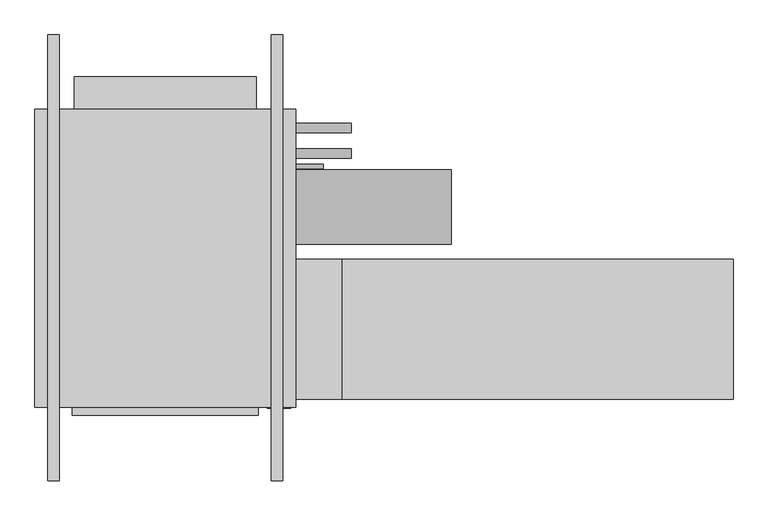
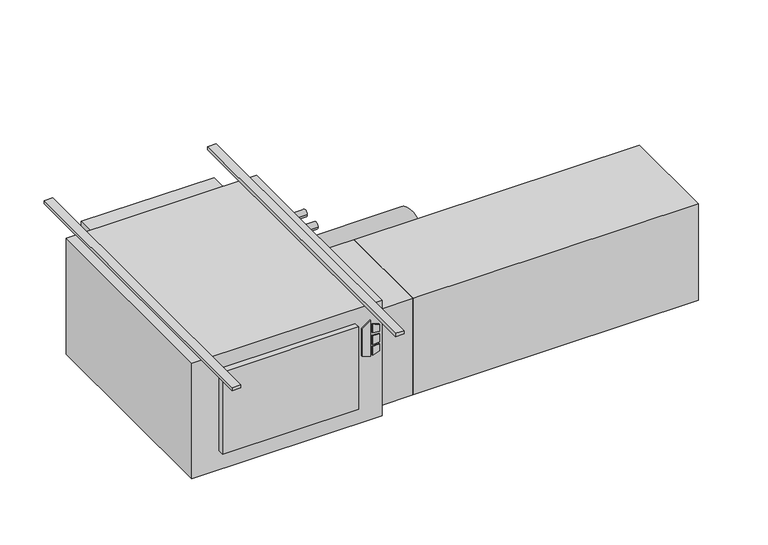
"""IFC4 building model written with IfcOpenShell, lengths in millimetres: proxy geometry."""

import ifcopenshell
import ifcopenshell.guid

model = None  # the IFC model being written
_history = None  # IfcOwnerHistory: only IFC2X3 demands one
_inside = {}  # id of a spatial element -> (the spatial element, [elements in it])
_under = {}  # id of a project, library or spatial element -> (it, [spatial elements below it])
_declared = {}  # id of a project -> (the project, [libraries it declares])
_typed = {}  # id of a type object -> (the type object, [elements of that type])
_made_of = {}  # id of a material, layer set ... -> (it, [elements and type objects made of it])


def new_model(schema):
    """Start an empty IFC model of exactly this schema.

    Asked for "IFC4X3", IfcOpenShell would pick the latest addendum, in which some entities
    have other attributes; the version numbers below select the first issue.
    IFC2X3 requires an IfcOwnerHistory on every rooted entity: one is made here for all.
    """
    global model, _history
    if schema == "IFC4X3":
        model = ifcopenshell.file(schema_version=(4, 3, 0, 0))
    else:
        model = ifcopenshell.file(schema=schema)
    _inside.clear()
    _under.clear()
    _declared.clear()
    _typed.clear()
    _made_of.clear()
    _history = None
    if model.schema == "IFC2X3":
        org = make("IfcOrganization", Name="unknown")
        user = make(
            "IfcPersonAndOrganization",
            ThePerson=make("IfcPerson", FamilyName="unknown"),
            TheOrganization=org,
        )
        app = make(
            "IfcApplication",
            ApplicationDeveloper=org,
            Version="unknown",
            ApplicationFullName="unknown",
            ApplicationIdentifier="unknown",
        )
        _history = make(
            "IfcOwnerHistory",
            OwningUser=user,
            OwningApplication=app,
            ChangeAction="ADDED",
            CreationDate=0,
        )
    return model


def make(cls, **values):
    """One entity of the class cls with the attributes given. An attribute that is None is left unset."""
    return model.create_entity(
        cls, **{name: value for name, value in values.items() if value is not None}
    )


def rooted(cls, **values):
    """An entity with a GlobalId (a new one), such as an element, a storey or a relation."""
    return make(cls, GlobalId=ifcopenshell.guid.new(), OwnerHistory=_history, **values)


def si_unit(unit_type, name, prefix=None):
    """IfcSIUnit, for example si_unit("LENGTHUNIT", "METRE", prefix="MILLI")."""
    return make("IfcSIUnit", UnitType=unit_type, Prefix=prefix, Name=name)


def assignment(units):
    """IfcUnitAssignment: the units of a project."""
    return None if units is None else make("IfcUnitAssignment", Units=units)


def point(xyz):
    """IfcCartesianPoint."""
    return None if xyz is None else make("IfcCartesianPoint", Coordinates=xyz)


def direction(xyz):
    """IfcDirection."""
    return None if xyz is None else make("IfcDirection", DirectionRatios=xyz)


def frame(location, z_axis=None, x_axis=None):
    """IfcAxis2Placement3D, a coordinate frame: its origin and axes. An axis left out is left unset."""
    return make(
        "IfcAxis2Placement3D",
        Location=point(location),
        Axis=direction(z_axis),
        RefDirection=direction(x_axis),
    )


def frame_2d(location, x_axis=None):
    """IfcAxis2Placement2D, a coordinate frame in the plane: its origin and x axis."""
    return make(
        "IfcAxis2Placement2D", Location=point(location), RefDirection=direction(x_axis)
    )


def origin():
    """The frame at (0, 0, 0) with its axes left unset."""
    return frame((0.0, 0.0, 0.0))


def origin_with_axes():
    """The frame at (0, 0, 0) with the z axis (0, 0, 1) and the x axis (1, 0, 0) written out."""
    return frame((0.0, 0.0, 0.0), z_axis=(0.0, 0.0, 1.0), x_axis=(1.0, 0.0, 0.0))


def place(relative_to, where):
    """IfcLocalPlacement: puts the frame where relative to a parent placement (None: the world)."""
    return make(
        "IfcLocalPlacement", PlacementRelTo=relative_to, RelativePlacement=where
    )


def context(
    kind, dimensions, precision=None, world=None, true_north=None, identifier=None
):
    """IfcGeometricRepresentationContext, for example the 3D "Model" context."""
    return make(
        "IfcGeometricRepresentationContext",
        ContextIdentifier=identifier,
        ContextType=kind,
        CoordinateSpaceDimension=dimensions,
        Precision=precision,
        WorldCoordinateSystem=world,
        TrueNorth=true_north,
    )


def project(units=None, contexts=None):
    """IfcProject with its units and contexts."""
    return rooted(
        "IfcProject",
        Name="project",
        RepresentationContexts=contexts,
        UnitsInContext=assignment(units),
    )


def spatial(cls, under=None, at=None, **own):
    """A site, building, storey or space (cls), placed at a placement, below another one or the project."""
    s = rooted(cls, ObjectPlacement=at, **own)
    if under is not None:
        _under.setdefault(under.id(), (under, []))[1].append(s)
    return s


def polyline(points):
    """IfcPolyline through the points."""
    return make("IfcPolyline", Points=[point(p) for p in points])


def circle_curve(where, radius):
    """IfcCircle in the frame where."""
    return make("IfcCircle", Position=where, Radius=radius)


def trimmed(basis, trim1, trim2, sense, master):
    """IfcTrimmedCurve: the piece of a basis curve between two trims."""
    return make(
        "IfcTrimmedCurve",
        BasisCurve=basis,
        Trim1=trim1,
        Trim2=trim2,
        SenseAgreement=sense,
        MasterRepresentation=master,
    )


def segment(curve, same_sense, transition):
    """IfcCompositeCurveSegment."""
    return make(
        "IfcCompositeCurveSegment",
        Transition=transition,
        SameSense=same_sense,
        ParentCurve=curve,
    )


def composite_curve(segments, self_intersect=None):
    """IfcCompositeCurve: segments joined end to end."""
    return make("IfcCompositeCurve", Segments=segments, SelfIntersect=self_intersect)


def outline(outer, holes=None, kind="AREA"):
    """IfcArbitraryClosedProfileDef: a profile drawn as a closed curve; with holes, ...WithVoids."""
    if holes is None:
        return make("IfcArbitraryClosedProfileDef", ProfileType=kind, OuterCurve=outer)
    return make(
        "IfcArbitraryProfileDefWithVoids",
        ProfileType=kind,
        OuterCurve=outer,
        InnerCurves=holes,
    )


def extrude(swept, where, along, depth):
    """IfcExtrudedAreaSolid: the profile swept, set in the frame where, extruded along a direction by depth."""
    return make(
        "IfcExtrudedAreaSolid",
        SweptArea=swept,
        Position=where,
        ExtrudedDirection=direction(along),
        Depth=depth,
    )


def shape(context_of_items, identifier, shape_type, items):
    """IfcShapeRepresentation: the items that make up one representation, for example the "Body"."""
    return make(
        "IfcShapeRepresentation",
        ContextOfItems=context_of_items,
        RepresentationIdentifier=identifier,
        RepresentationType=shape_type,
        Items=items,
    )


def source(mapping_origin, context_of_items, identifier, shape_type, items):
    """IfcRepresentationMap: a shape defined once, which mapped items show again and again."""
    return make(
        "IfcRepresentationMap",
        MappingOrigin=mapping_origin,
        MappedRepresentation=shape(context_of_items, identifier, shape_type, items),
    )


def transform(
    local_origin,
    x_axis=None,
    y_axis=None,
    z_axis=None,
    scale=None,
    scale2=None,
    scale3=None,
    uniform=True,
):
    """IfcCartesianTransformationOperator3D, or its non-uniform kind. x_axis, y_axis, z_axis: its Axis1, 2, 3."""
    if uniform:
        return make(
            "IfcCartesianTransformationOperator3D",
            Axis1=direction(x_axis),
            Axis2=direction(y_axis),
            LocalOrigin=point(local_origin),
            Scale=scale,
            Axis3=direction(z_axis),
        )
    return make(
        "IfcCartesianTransformationOperator3DnonUniform",
        Axis1=direction(x_axis),
        Axis2=direction(y_axis),
        LocalOrigin=point(local_origin),
        Scale=scale,
        Axis3=direction(z_axis),
        Scale2=scale2,
        Scale3=scale3,
    )


def mapped(mapping_source, mapping_target):
    """IfcMappedItem: shows the shape of a source again, moved by a transform."""
    return make(
        "IfcMappedItem", MappingSource=mapping_source, MappingTarget=mapping_target
    )


def made_of(thing, what):
    """Note that an element or type object is made of a material, layer set ...; save() writes the relation."""
    if what is not None:
        _made_of.setdefault(what.id(), (what, []))[1].append(thing)
    return thing


def element(
    cls,
    number,
    at=None,
    inside=None,
    cuts=None,
    type_object=None,
    material=None,
    context=None,
    identifier="Body",
    shape_type=None,
    held_by="IfcProductDefinitionShape",
    body=None,
    shapes=None,
    **own,
):
    """One element of the class cls, such as IfcWall. Its Tag is "e" and its number.

    at: its placement. inside: the storey or other place that contains it. cuts: it is an
    opening in that element (IfcRelVoidsElement). A single representation is given by context,
    identifier, shape_type and body (its items); several are given by shapes. held_by: the class
    of the entity that holds the representations. save() writes the other relations.
    """
    e = rooted(cls, Tag="e%d" % number, ObjectPlacement=at, **own)
    if body is not None:
        shapes = [shape(context, identifier, shape_type, body)]
    if shapes is not None:
        e.Representation = make(held_by, Representations=shapes)
    if inside is not None:
        _inside.setdefault(inside.id(), (inside, []))[1].append(e)
    if cuts is not None:
        rooted(
            "IfcRelVoidsElement", RelatingBuildingElement=cuts, RelatedOpeningElement=e
        )
    if type_object is not None:
        _typed.setdefault(type_object.id(), (type_object, []))[1].append(e)
    return made_of(e, material)


def aggregate(whole, parts):
    """IfcRelAggregates: a whole, such as a stair, and the parts it consists of."""
    return rooted("IfcRelAggregates", RelatingObject=whole, RelatedObjects=parts)


def save(model, path):
    """Write the relations noted so far, then the file.

    IfcRelAggregates (storeys below a building ...), IfcRelContainedInSpatialStructure (elements
    in a storey), IfcRelDefinesByType, IfcRelAssociatesMaterial and IfcRelDeclares: one each for
    every whole, place, type object, material and project.
    """
    for whole, parts in _under.values():
        aggregate(whole, parts)
    for where, things in _inside.values():
        rooted(
            "IfcRelContainedInSpatialStructure",
            RelatedElements=things,
            RelatingStructure=where,
        )
    for kind, things in _typed.values():
        rooted("IfcRelDefinesByType", RelatedObjects=things, RelatingType=kind)
    for what, things in _made_of.values():
        rooted("IfcRelAssociatesMaterial", RelatedObjects=things, RelatingMaterial=what)
    for by, libraries in _declared.values():
        rooted("IfcRelDeclares", RelatingContext=by, RelatedDefinitions=libraries)
    model.write(path)


def mechanical_equipment_b4f22ead(model_context):
    return source(origin(), model_context, "Body", "SweptSolid", [
        extrude(outline(polyline([(-193.2519297, 430.2868862), (-203.2, 462.4602728), (-61.0290756, 462.4602728), (-84.0510817, 430.2868862), (-193.2519297, 430.2868862)])), frame((0.0, -647.7, 0.0), z_axis=(0.0, 1.0, 0.0), x_axis=(0.0, 0.0, 1.0)), (0.0, 0.0, 1.0), 3.175),
        extrude(outline(polyline([(-114.2526443, 469.2186058), (-117.4550368, 495.3), (-88.2261958, 495.3), (-80.1617807, 469.2186058), (-114.2526443, 469.2186058)])), frame((0.0, -647.7, 0.0), z_axis=(0.0, 1.0, 0.0), x_axis=(0.0, 0.0, 1.0)), (0.0, 0.0, 1.0), 3.175),
        extrude(outline(polyline([(-166.1161712, 495.3), (-169.7816721, 469.2186058), (-203.2, 469.2186058), (-194.5657628, 495.3), (-166.1161712, 495.3)])), frame((0.0, -647.7, 0.0), z_axis=(0.0, 1.0, 0.0), x_axis=(0.0, 0.0, 1.0)), (0.0, 0.0, 1.0), 3.175),
        extrude(outline(polyline([(-126.8010097, 495.3), (-124.5191834, 469.2186058), (-160.4567319, 469.2186058), (-157.7154669, 495.3), (-126.8010097, 495.3)])), frame((0.0, -647.7, 0.0), z_axis=(0.0, 1.0, 0.0), x_axis=(0.0, 0.0, 1.0)), (0.0, 0.0, 1.0), 3.175),
        extrude(outline(polyline([(406.4, -666.877), (-101.6, -666.877), (-101.6, -644.525), (406.4, -644.525), (406.4, -666.877)])), frame((0.0, 0.0, -381.0), z_axis=(0.0, 0.0, 1.0), x_axis=(1.0, 0.0, 0.0)), (0.0, 0.0, 1.0), 323.85),
        extrude(outline(polyline([(1701.8, -241.3), (1701.8, -622.3), (635.0, -622.3), (635.0, -241.3), (1701.8, -241.3)])), frame((0.0, 0.0, -431.8), z_axis=(0.0, 0.0, 1.0), x_axis=(1.0, 0.0, 0.0)), (0.0, 0.0, 1.0), 381.0),
        extrude(outline(polyline([(635.0, -241.3), (635.0, -622.3), (508.0, -622.3), (508.0, -241.3), (635.0, -241.3)])), frame((0.0, 0.0, -431.8), z_axis=(0.0, 0.0, 1.0), x_axis=(1.0, 0.0, 0.0)), (0.0, 0.0, 1.0), 381.0),
        extrude(outline(composite_curve([segment(trimmed(circle_curve(frame_2d((117.475, -171.45)), 12.7), [point((130.175, -171.45))], [point((104.775, -171.45))], False, "CARTESIAN"), True, "CONTINUOUS"), segment(trimmed(circle_curve(frame_2d((117.475, -171.45)), 12.7), [point((104.775, -171.45))], [point((130.175, -171.45))], False, "CARTESIAN"), True, "CONTINUOUS")], self_intersect=False)), frame((508.0, 0.0, 0.0), z_axis=(1.0, 0.0, 0.0), x_axis=(0.0, 1.0, 0.0)), (0.0, 0.0, 1.0), 152.4),
        extrude(outline(composite_curve([segment(trimmed(circle_curve(frame_2d((47.625, -177.8)), 12.7), [point((60.325, -177.8))], [point((34.925, -177.8))], False, "CARTESIAN"), True, "CONTINUOUS"), segment(trimmed(circle_curve(frame_2d((47.625, -177.8)), 12.7), [point((34.925, -177.8))], [point((60.325, -177.8))], False, "CARTESIAN"), True, "CONTINUOUS")], self_intersect=False)), frame((508.0, 0.0, 0.0), z_axis=(1.0, 0.0, 0.0), x_axis=(0.0, 1.0, 0.0)), (0.0, 0.0, 1.0), 152.4),
        extrude(outline(composite_curve([segment(trimmed(circle_curve(frame_2d((-98.4896516, -228.6360165)), 101.6), [point((3.1103484, -228.6360165))], [point((-200.0896516, -228.6360165))], False, "CARTESIAN"), True, "CONTINUOUS"), segment(trimmed(circle_curve(frame_2d((-98.4896516, -228.6360165)), 101.6), [point((-200.0896516, -228.6360165))], [point((3.1103484, -228.6360165))], False, "CARTESIAN"), True, "CONTINUOUS")], self_intersect=False)), frame((508.0, 0.0, 0.0), z_axis=(1.0, 0.0, 0.0), x_axis=(0.0, 1.0, 0.0)), (0.0, 0.0, 1.0), 425.45),
        extrude(outline(composite_curve([segment(trimmed(circle_curve(frame_2d((12.7, -409.575)), 6.35), [point((19.05, -409.575))], [point((6.35, -409.575))], False, "CARTESIAN"), True, "CONTINUOUS"), segment(trimmed(circle_curve(frame_2d((12.7, -409.575)), 6.35), [point((6.35, -409.575))], [point((19.05, -409.575))], False, "CARTESIAN"), True, "CONTINUOUS")], self_intersect=False)), frame((508.0, 0.0, 0.0), z_axis=(1.0, 0.0, 0.0), x_axis=(0.0, 1.0, 0.0)), (0.0, 0.0, 1.0), 76.2),
        extrude(outline(polyline([(508.0, 168.275), (508.0, -644.525), (-203.2, -644.525), (-203.2, 168.275), (508.0, 168.275)])), frame((0.0, 0.0, -457.2), z_axis=(0.0, 0.0, 1.0), x_axis=(1.0, 0.0, 0.0)), (0.0, 0.0, 1.0), 457.2),
        extrude(outline(polyline([(-95.25, 257.175), (400.05, 257.175), (400.05, 168.275), (-95.25, 168.275), (-95.25, 257.175)])), frame((0.0, 0.0, -381.0), z_axis=(0.0, 0.0, 1.0), x_axis=(1.0, 0.0, 0.0)), (0.0, 0.0, 1.0), 355.6),
        extrude(outline(polyline([(-136.525, 371.475), (-136.525, -844.677), (-168.275, -844.677), (-168.275, 371.475), (-136.525, 371.475)])), origin_with_axes(), (0.0, 0.0, 1.0), 12.7),
        extrude(outline(polyline([(473.075, 371.475), (473.075, -844.677), (441.325, -844.677), (441.325, 371.475), (473.075, 371.475)])), origin_with_axes(), (0.0, 0.0, 1.0), 12.7),
    ])


if __name__ == "__main__":
    model = new_model("IFC4")
    model_context = context("Model", 3, world=origin())
    ifc_project = project(units=[si_unit("LENGTHUNIT", "METRE", prefix="MILLI")], contexts=[model_context])
    site = spatial("IfcSite", under=ifc_project)
    building = spatial("IfcBuilding", under=site)
    placement = place(None, origin())
    mechanical_equipment_shape = mechanical_equipment_b4f22ead(model_context)
    element("IfcBuildingElementProxy", 1, Name="High_Capacity_Horizontal_Cabinet_Fan_Coil_Unit_-_HTY_-_IEC_-_2-Pipe_WO-Attenuator_RH Side_2022 : Size 08 - 277v/60Hz/1Ph - 8/0 Coil - 8\" AirIn", ObjectType="High_Capacity_Horizontal_Cabinet_Fan_Coil_Unit_-_HTY_-_IEC_-_2-Pipe_WO-Attenuator_RH Side_2022 : Size 08 - 277v/60Hz/1Ph - 8/0 Coil - 8\" AirIn", at=placement, inside=building, context=model_context, shape_type="MappedRepresentation", body=[
        mapped(mechanical_equipment_shape, transform((0.0, 0.0, 0.0), x_axis=(1.0, 0.0, 0.0), y_axis=(0.0, 1.0, 0.0), z_axis=(0.0, 0.0, 1.0))),
    ])
    save(model, "model.ifc")
